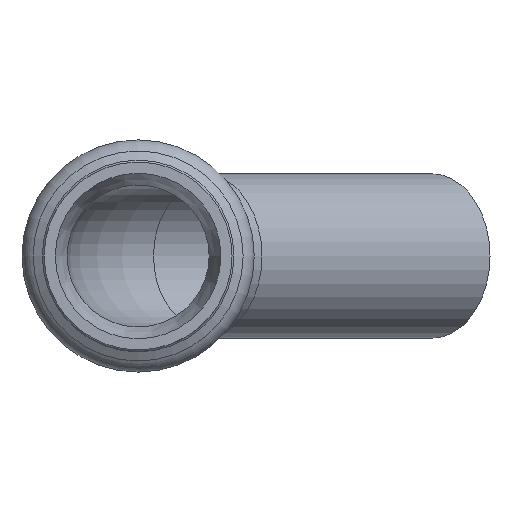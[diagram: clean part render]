
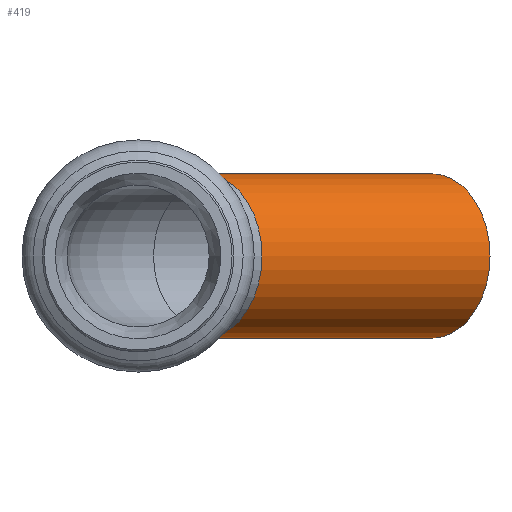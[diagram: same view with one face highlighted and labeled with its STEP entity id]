
A CAD part, left-side view. The second image highlights one B-rep face of the part: STEP entity #419.
In plain terms, the highlighted cylindrical face has radius 11 mm (diameter 22 mm), a full revolution.
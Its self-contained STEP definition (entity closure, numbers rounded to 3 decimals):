
#388=CARTESIAN_POINT('',(21.213,-8.787,-11.0));
#389=VERTEX_POINT('',#388);
#390=CARTESIAN_POINT('',(21.213,-8.787,0.0));
#391=DIRECTION('',(0.707,-0.707,0.0));
#392=DIRECTION('',(0.0,0.0,1.0));
#393=AXIS2_PLACEMENT_3D('',#390,#391,#392);
#394=CIRCLE('',#393,11.0);
#395=EDGE_CURVE('',#389,#389,#394,.T.);
#400=CARTESIAN_POINT('',(51.742,-39.315,0.0));
#401=DIRECTION('',(-0.707,0.707,0.0));
#402=DIRECTION('',(0.0,0.0,1.0));
#403=AXIS2_PLACEMENT_3D('',#400,#401,#402);
#404=CYLINDRICAL_SURFACE('',#403,11.0);
#405=ORIENTED_EDGE('',*,*,#395,.T.);
#406=EDGE_LOOP('',(#405));
#407=FACE_OUTER_BOUND('',#406,.T.);
#408=CARTESIAN_POINT('',(51.742,-39.315,-11.0));
#409=VERTEX_POINT('',#408);
#410=CARTESIAN_POINT('',(51.742,-39.315,0.0));
#411=DIRECTION('',(-0.707,0.707,0.0));
#412=DIRECTION('',(0.0,0.0,1.0));
#413=AXIS2_PLACEMENT_3D('',#410,#411,#412);
#414=CIRCLE('',#413,11.0);
#415=EDGE_CURVE('',#409,#409,#414,.T.);
#416=ORIENTED_EDGE('',*,*,#415,.T.);
#417=EDGE_LOOP('',(#416));
#418=FACE_BOUND('',#417,.T.);
#419=ADVANCED_FACE('',(#407,#418),#404,.T.);
